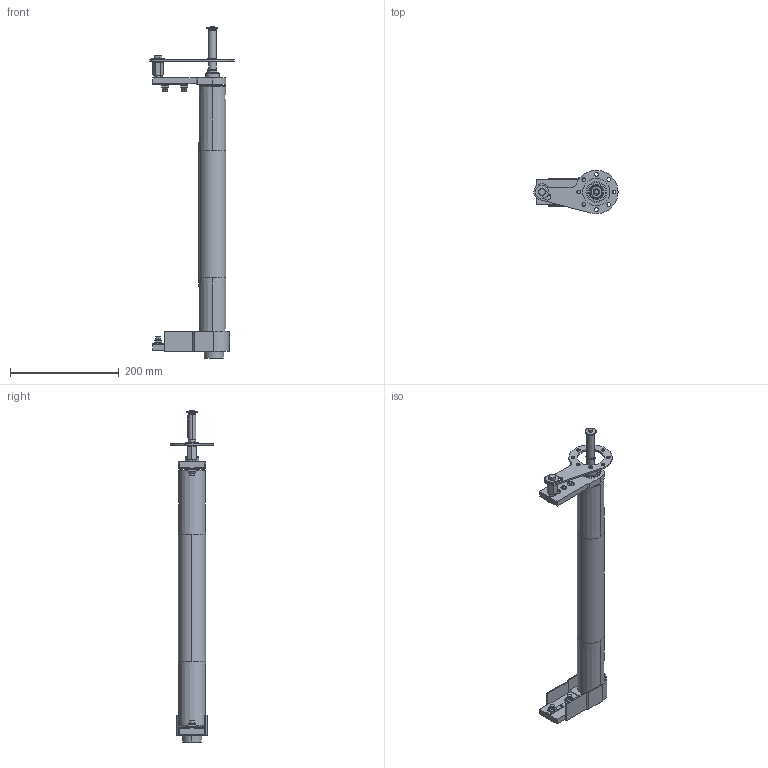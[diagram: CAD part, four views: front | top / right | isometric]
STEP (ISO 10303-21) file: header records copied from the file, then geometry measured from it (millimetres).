
FILE_DESCRIPTION (( 'STEP AP214' ), '1' );
FILE_NAME ('084.050.KDC.30.450.STEP', '2019-08-07T09:56:19', ( '' ), ( '' ), 'SwSTEP 2.0', 'SolidWorks 2018', '' );
FILE_SCHEMA (( 'AUTOMOTIVE_DESIGN' ));
Length unit declared in the file: millimetre
Products named in the file (23): 084.802.027; Circlip DIN 471 - 14 x 1_Circlip DIN 471 - 14 x 1; DADI ESAGONALI RIBASSATI UNI 5589_M8 UNI 5589; CHIAVETTE_A 5x5x40 UNI 6604-69; 084.802.017_084.802.017; 084.807.004_084.807.004; VITI TE UNI 5739_M5x12 UNI 5739; 084.811.004; 084.810.001; GRANI A PUNTA PIATTA UNI 5923_M8x20 UNI 5923; TPU12-5; RONDELLE FASCIA LARGA UNI 6593_5.4x20 UNI 6593; 084.802.023_084.802.023; 084.811.001; RONDELLE FASCIA LARGA UNI 6593_8.4x24 UNI 6593; 084.815.129_Default<A macchina>; VITI TE UNI 5739_M8x25 UNI 5739; 084.302.000 DADI ALUSIC 13x13_084.302.004; 084.301.000 VITI ALUSIC_084.301.003; 084.050.KDC.30.450; 084.807.013_084.807.003; 084.807.005; VITI TSEI UNI 5933_M4x12 UNI 5933
Assembly tree (32 placements, depth 2):
  084.050.KDC.30.450
    084.807.004_084.807.004
    084.807.013_084.807.003
    084.811.001
    084.802.017_084.802.017  x2
    084.811.004
    084.815.129_Default<A macchina>
    084.810.001  x2
    084.807.005
    084.802.023_084.802.023
    VITI TSEI UNI 5933_M4x12 UNI 5933  x2
    084.802.027
    084.301.000 VITI ALUSIC_084.301.003  x4
    084.302.000 DADI ALUSIC 13x13_084.302.004  x4
    DADI ESAGONALI RIBASSATI UNI 5589_M8 UNI 5589
    RONDELLE FASCIA LARGA UNI 6593_8.4x24 UNI 6593
    RONDELLE FASCIA LARGA UNI 6593_5.4x20 UNI 6593
    VITI TE UNI 5739_M5x12 UNI 5739
    VITI TE UNI 5739_M8x25 UNI 5739
    GRANI A PUNTA PIATTA UNI 5923_M8x20 UNI 5923
    TPU12-5
    CHIAVETTE_A 5x5x40 UNI 6604-69
    Circlip DIN 471 - 14 x 1_Circlip DIN 471 - 14 x 1  x2
Bounding box: 154.99 x 80 x 611.63 mm (x, y, z)
Volume: 563869.7 mm3; surface area: 368110.9 mm2
Topology: 34 solids, 36 shells, 918 faces, 2266 edges, 1464 vertices
Faces by surface type: plane 381, cylinder 295, cone 110, torus 70, bspline 54, sphere 8
Entity records: 22702 total; most frequent: CARTESIAN_POINT 4907, DIRECTION 3511, ORIENTED_EDGE 3408, EDGE_CURVE 1704, AXIS2_PLACEMENT_3D 1348, VERTEX_POINT 1104, VECTOR 815, LINE 815
